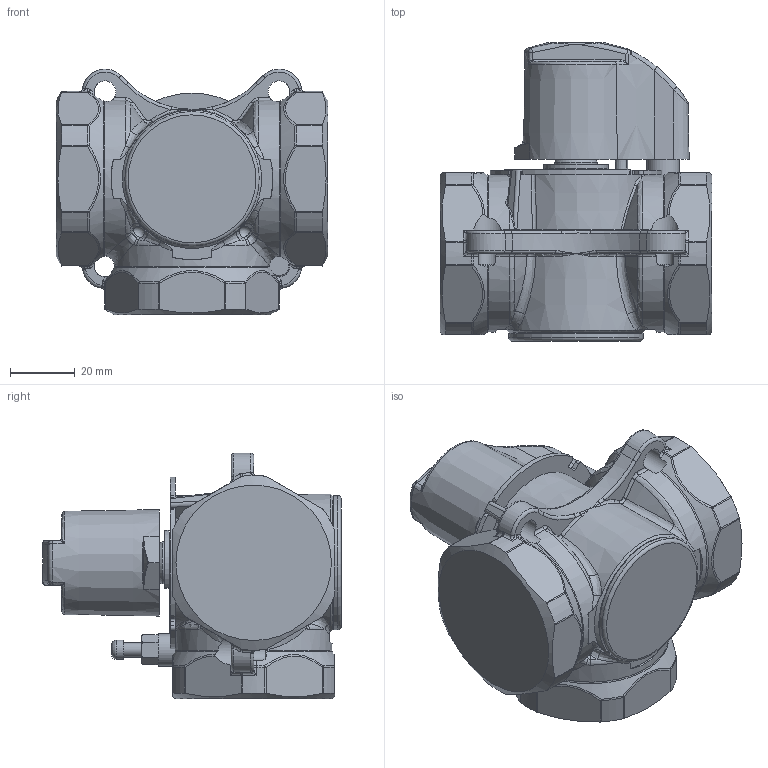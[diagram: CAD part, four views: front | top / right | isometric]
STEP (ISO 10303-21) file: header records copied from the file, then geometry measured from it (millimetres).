
FILE_DESCRIPTION(('STEP AP203'), '1');
FILE_NAME('VT.MIX03.G.07', '2025-11-14T13:49:35', ('verevichevva'), ('Vesta'), 'C3D Converter', 'C3D Toolkit', '');
FILE_SCHEMA(('CONFIG_CONTROL_DESIGN'));
Length unit declared in the file: millimetre
Products named in the file (1): Parte5
Bounding box: 84 x 92.1 x 75.86 mm (x, y, z)
Volume: 250959 mm3; surface area: 33437.4 mm2
Topology: 1 solids, 1 shells, 768 faces, 1985 edges, 1218 vertices
Faces by surface type: bspline 265, plane 196, cylinder 154, torus 66, cone 51, sphere 36
Full cylindrical faces by diameter (mm): 4.5 x1, 6 x1, 6.75 x4, 10 x2, 13 x1, 41.5 x1
Entity records: 50753 total; most frequent: CARTESIAN_POINT 34574, ORIENTED_EDGE 3882, DIRECTION 2468, EDGE_CURVE 1941, VERTEX_POINT 1218, AXIS2_PLACEMENT_3D 941, B_SPLINE_CURVE_WITH_KNOTS 904, EDGE_LOOP 823
